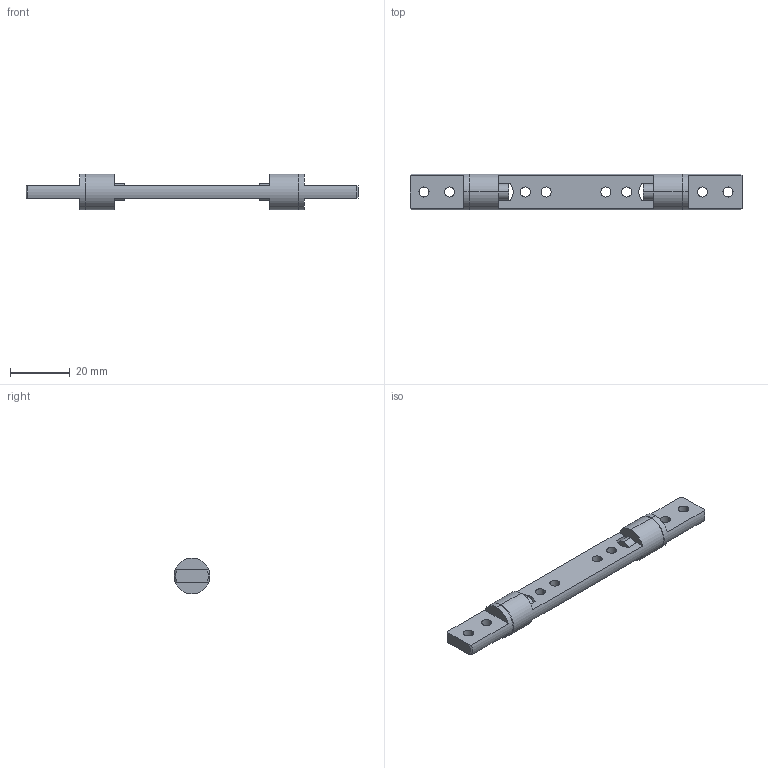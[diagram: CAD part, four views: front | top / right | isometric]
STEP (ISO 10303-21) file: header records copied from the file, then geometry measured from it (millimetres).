
FILE_DESCRIPTION (( 'STEP AP203' ), '1' );
FILE_NAME ('XG11-126.STEP', '2025-04-01T08:57:51', ( '微软用户' ), ( '微软中国' ), 'SwSTEP 2.0', 'SolidWorks 2024', '' );
FILE_SCHEMA (( 'CONFIG_CONTROL_DESIGN' ));
Length unit declared in the file: millimetre
Products named in the file (1): XG11-126
Bounding box: 111.5 x 12 x 12 mm (x, y, z)
Volume: 6536.5 mm3; surface area: 4348.3 mm2
Topology: 1 solids, 1 shells, 62 faces, 174 edges, 112 vertices
Faces by surface type: cylinder 26, plane 24, torus 8, cone 4
Entity records: 2151 total; most frequent: DIRECTION 376, CARTESIAN_POINT 373, ORIENTED_EDGE 348, EDGE_CURVE 174, AXIS2_PLACEMENT_3D 147, VERTEX_POINT 112, CIRCLE 84, LINE 82
